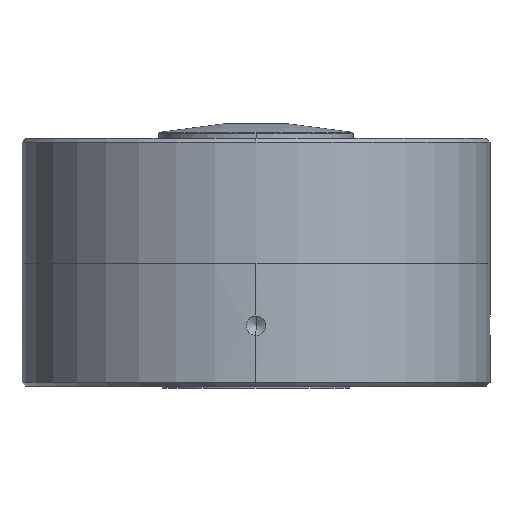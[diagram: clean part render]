
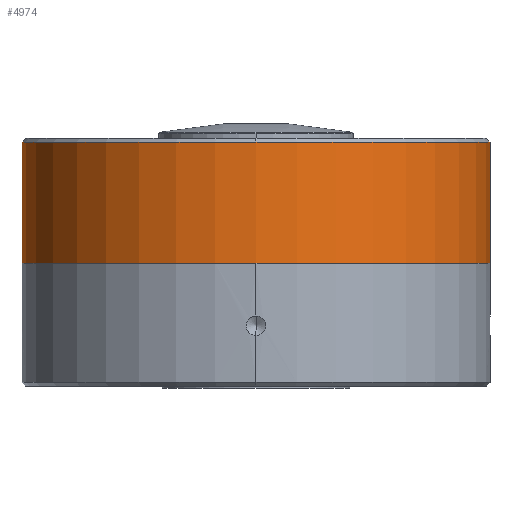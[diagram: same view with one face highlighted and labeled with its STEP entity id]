
A CAD part, left-side view. The second image highlights one B-rep face of the part: STEP entity #4974.
In plain terms, the highlighted cylindrical face has radius 95.225 mm (diameter 190.449 mm), a partial arc.
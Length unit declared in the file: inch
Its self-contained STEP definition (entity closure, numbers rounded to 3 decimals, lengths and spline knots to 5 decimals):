
#1402 = CIRCLE ( 'NONE', #1403, 3.749 ) ;
#1403 = AXIS2_PLACEMENT_3D ( 'NONE', #1404, #1405, #1406 ) ;
#1404 = CARTESIAN_POINT ( 'NONE',  ( 0., 0., -0.06 ) ) ;
#1405 = DIRECTION ( 'NONE',  ( 0., 0., -1. ) ) ;
#1406 = DIRECTION ( 'NONE',  ( 0., 1., 0. ) ) ;
#1837 = CARTESIAN_POINT ( 'NONE',  ( 0., -3.749, -0.06 ) ) ;
#2532 = CIRCLE ( 'NONE', #2533, 3.749 ) ;
#2533 = AXIS2_PLACEMENT_3D ( 'NONE', #2534, #2535, #2536 ) ;
#2534 = CARTESIAN_POINT ( 'NONE',  ( 0., 0., -2. ) ) ;
#2535 = DIRECTION ( 'NONE',  ( 0., 0., 1. ) ) ;
#2536 = DIRECTION ( 'NONE',  ( 0., 1., 0. ) ) ;
#3402 = CARTESIAN_POINT ( 'NONE',  ( -3.749, 0., -0.06 ) ) ;
#3458 = CIRCLE ( 'NONE', #3459, 3.749 ) ;
#3459 = AXIS2_PLACEMENT_3D ( 'NONE', #3460, #3461, #3462 ) ;
#3460 = CARTESIAN_POINT ( 'NONE',  ( 0., 0., -0.06 ) ) ;
#3461 = DIRECTION ( 'NONE',  ( 0., 0., -1. ) ) ;
#3462 = DIRECTION ( 'NONE',  ( 0., 1., 0. ) ) ;
#4146 = ORIENTED_EDGE ( 'NONE', *, *, #10262, .F. ) ;
#4659 = LINE ( 'NONE', #4660, #4661 ) ;
#4660 = CARTESIAN_POINT ( 'NONE',  ( 0., 3.749, -0.06 ) ) ;
#4661 = VECTOR ( 'NONE', #4662, 39.37008 ) ;
#4662 = DIRECTION ( 'NONE',  ( 0., 0., -1. ) ) ;
#4711 = EDGE_LOOP ( 'NONE', ( #4146, #7003, #6897, #6775, #6660 ) ) ;
#4974 = ADVANCED_FACE ( 'NONE', ( #9741 ), #9742, .T. ) ;
#5085 = CARTESIAN_POINT ( 'NONE',  ( 0., 3.749, -2. ) ) ;
#5735 = VERTEX_POINT ( 'NONE', #11704 ) ;
#6334 = VERTEX_POINT ( 'NONE', #1837 ) ;
#6586 = EDGE_CURVE ( 'NONE', #8833, #10022, #2532, .T. ) ;
#6660 = ORIENTED_EDGE ( 'NONE', *, *, #6586, .T. ) ;
#6775 = ORIENTED_EDGE ( 'NONE', *, *, #7874, .T. ) ;
#6879 = VERTEX_POINT ( 'NONE', #3402 ) ;
#6897 = ORIENTED_EDGE ( 'NONE', *, *, #6908, .T. ) ;
#6908 = EDGE_CURVE ( 'NONE', #6879, #5735, #3458, .T. ) ;
#7003 = ORIENTED_EDGE ( 'NONE', *, *, #12459, .T. ) ;
#7874 = EDGE_CURVE ( 'NONE', #5735, #8833, #4659, .T. ) ;
#8833 = VERTEX_POINT ( 'NONE', #5085 ) ;
#9741 = FACE_OUTER_BOUND ( 'NONE', #4711, .T. ) ;
#9742 = CYLINDRICAL_SURFACE ( 'NONE', #9743, 3.749 ) ;
#9743 = AXIS2_PLACEMENT_3D ( 'NONE', #9744, #9745, #9750 ) ;
#9744 = CARTESIAN_POINT ( 'NONE',  ( 0., 0., -0.06 ) ) ;
#9745 = DIRECTION ( 'NONE',  ( 0., 0., -1. ) ) ;
#9750 = DIRECTION ( 'NONE',  ( 0., 1., 0. ) ) ;
#10022 = VERTEX_POINT ( 'NONE', #11722 ) ;
#10262 = EDGE_CURVE ( 'NONE', #6334, #10022, #11981, .T. ) ;
#11704 = CARTESIAN_POINT ( 'NONE',  ( 0., 3.749, -0.06 ) ) ;
#11722 = CARTESIAN_POINT ( 'NONE',  ( 0., -3.749, -2. ) ) ;
#11981 = LINE ( 'NONE', #11982, #11983 ) ;
#11982 = CARTESIAN_POINT ( 'NONE',  ( 0., -3.749, -0.06 ) ) ;
#11983 = VECTOR ( 'NONE', #11984, 39.37008 ) ;
#11984 = DIRECTION ( 'NONE',  ( 0., 0., -1. ) ) ;
#12459 = EDGE_CURVE ( 'NONE', #6334, #6879, #1402, .T. ) ;
